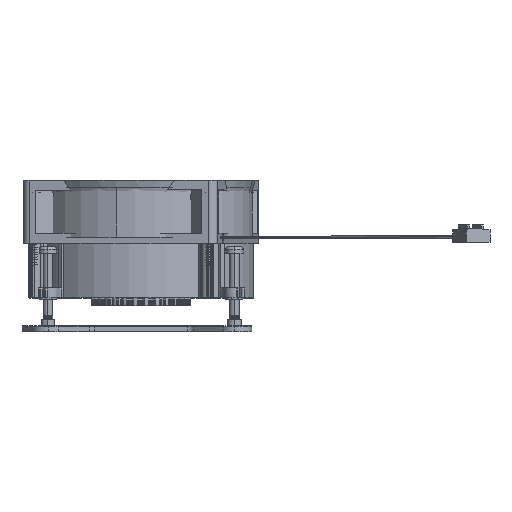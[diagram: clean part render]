
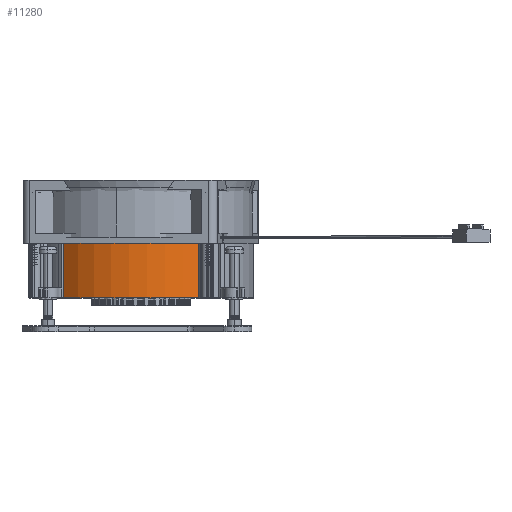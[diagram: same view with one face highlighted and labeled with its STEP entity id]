
A CAD part, top view. The second image highlights one B-rep face of the part: STEP entity #11280.
In plain terms, the highlighted cylindrical face has radius 45.1 mm (diameter 90.2 mm), a partial arc.
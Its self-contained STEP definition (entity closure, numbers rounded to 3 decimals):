
#96=DIRECTION('',(0.,1.,0.));
#97=VECTOR('',#96,22.);
#98=CARTESIAN_POINT('',(1486.581,685.972,38.659));
#99=LINE('',#98,#97);
#455=CARTESIAN_POINT('',(1463.353,707.972,0.));
#456=DIRECTION('',(0.,1.,0.));
#457=DIRECTION('',(-0.691,0.,0.723));
#458=AXIS2_PLACEMENT_3D('',#455,#456,#457);
#773=CARTESIAN_POINT('',(1463.353,685.972,0.));
#774=DIRECTION('',(0.,1.,0.));
#775=DIRECTION('',(-0.691,0.,0.723));
#776=AXIS2_PLACEMENT_3D('',#773,#774,#775);
#7791=DIRECTION('',(0.,1.,0.));
#7792=VECTOR('',#7791,22.);
#7793=CARTESIAN_POINT('',(1432.178,685.972,32.59));
#7794=LINE('',#7793,#7792);
#10070=CARTESIAN_POINT('',(1486.581,685.972,38.659));
#10071=CARTESIAN_POINT('',(1486.581,707.972,38.659));
#10072=VERTEX_POINT('',#10070);
#10073=VERTEX_POINT('',#10071);
#10468=CARTESIAN_POINT('',(1432.178,685.972,32.59));
#10469=CARTESIAN_POINT('',(1432.178,707.972,32.59));
#10470=VERTEX_POINT('',#10468);
#10471=VERTEX_POINT('',#10469);
#11266=CARTESIAN_POINT('',(1463.353,707.972,0.));
#11267=DIRECTION('',(0.,1.,0.));
#11268=DIRECTION('',(-1.,0.,0.));
#11269=AXIS2_PLACEMENT_3D('',#11266,#11267,#11268);
#11270=CYLINDRICAL_SURFACE('',#11269,45.1);
#11271=ORIENTED_EDGE('',*,*,#11207,.F.);
#11273=ORIENTED_EDGE('',*,*,#11272,.F.);
#11275=ORIENTED_EDGE('',*,*,#11274,.T.);
#11277=ORIENTED_EDGE('',*,*,#11276,.T.);
#11278=EDGE_LOOP('',(#11271,#11273,#11275,#11277));
#11279=FACE_OUTER_BOUND('',#11278,.F.);
#11280=ADVANCED_FACE('',(#11279),#11270,.T.);
#459=CIRCLE('',#458,45.1);
#777=CIRCLE('',#776,45.1);
#11207=EDGE_CURVE('',#10072,#10073,#99,.T.);
#11272=EDGE_CURVE('',#10470,#10072,#777,.T.);
#11274=EDGE_CURVE('',#10470,#10471,#7794,.T.);
#11276=EDGE_CURVE('',#10471,#10073,#459,.T.);
